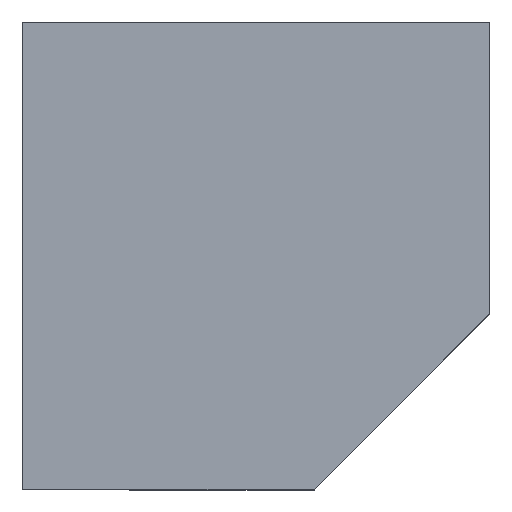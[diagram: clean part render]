
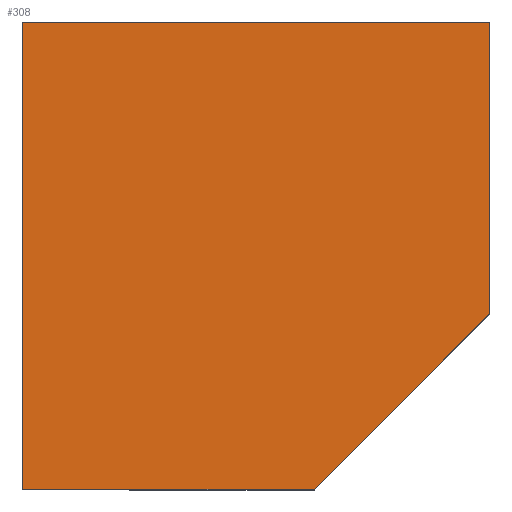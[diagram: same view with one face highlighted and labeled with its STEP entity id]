
A CAD part, top view. The second image highlights one B-rep face of the part: STEP entity #308.
In plain terms, the highlighted planar face has unit normal (0, 0, 1).
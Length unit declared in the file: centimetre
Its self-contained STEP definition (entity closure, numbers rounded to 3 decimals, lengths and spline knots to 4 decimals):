
#7 = LINE ( 'NONE', #46, #374 ) ;
#14 = ORIENTED_EDGE ( 'NONE', *, *, #324, .T. ) ;
#22 = ORIENTED_EDGE ( 'NONE', *, *, #343, .T. ) ;
#26 = ORIENTED_EDGE ( 'NONE', *, *, #404, .T. ) ;
#37 = CARTESIAN_POINT ( 'NONE',  ( 1000., 1000., 1000. ) ) ;
#46 = CARTESIAN_POINT ( 'NONE',  ( 0., 0., 1000. ) ) ;
#61 = ORIENTED_EDGE ( 'NONE', *, *, #287, .T. ) ;
#64 = VECTOR ( 'NONE', #229, 100. ) ;
#67 = DIRECTION ( 'NONE',  ( 0., 1., 0. ) ) ;
#85 = DIRECTION ( 'NONE',  ( 1., 0., 0. ) ) ;
#114 = VERTEX_POINT ( 'NONE', #379 ) ;
#133 = DIRECTION ( 'NONE',  ( 1., 0., 0. ) ) ;
#176 = PLANE ( 'NONE',  #502 ) ;
#223 = VERTEX_POINT ( 'NONE', #37 ) ;
#229 = DIRECTION ( 'NONE',  ( 0., -1., 0. ) ) ;
#247 = CARTESIAN_POINT ( 'NONE',  ( 0., 0., 1000. ) ) ;
#287 = EDGE_CURVE ( 'NONE', #114, #223, #478, .T. ) ;
#293 = LINE ( 'NONE', #518, #426 ) ;
#308 = ADVANCED_FACE ( 'NONE', ( #512 ), #176, .T. ) ;
#314 = EDGE_LOOP ( 'NONE', ( #14, #471, #61, #22, #26 ) ) ;
#323 = VECTOR ( 'NONE', #67, 100. ) ;
#324 = EDGE_CURVE ( 'NONE', #535, #493, #7, .T. ) ;
#332 = DIRECTION ( 'NONE',  ( 0., 0., 1. ) ) ;
#343 = EDGE_CURVE ( 'NONE', #223, #442, #293, .T. ) ;
#345 = CARTESIAN_POINT ( 'NONE',  ( 0., 1000., 1000. ) ) ;
#374 = VECTOR ( 'NONE', #85, 100. ) ;
#376 = CARTESIAN_POINT ( 'NONE',  ( 0., 0., 1000. ) ) ;
#379 = CARTESIAN_POINT ( 'NONE',  ( 1000., 375.1224, 1000. ) ) ;
#394 = LINE ( 'NONE', #435, #440 ) ;
#404 = EDGE_CURVE ( 'NONE', #442, #535, #531, .T. ) ;
#419 = DIRECTION ( 'NONE',  ( -1., 0., 0. ) ) ;
#426 = VECTOR ( 'NONE', #419, 100. ) ;
#429 = EDGE_CURVE ( 'NONE', #493, #114, #394, .T. ) ;
#435 = CARTESIAN_POINT ( 'NONE',  ( 312.4388, -312.4388, 1000. ) ) ;
#440 = VECTOR ( 'NONE', #489, 100. ) ;
#442 = VERTEX_POINT ( 'NONE', #523 ) ;
#454 = CARTESIAN_POINT ( 'NONE',  ( 624.8776, 0., 1000. ) ) ;
#471 = ORIENTED_EDGE ( 'NONE', *, *, #429, .T. ) ;
#478 = LINE ( 'NONE', #498, #323 ) ;
#489 = DIRECTION ( 'NONE',  ( 0.707, 0.707, 0. ) ) ;
#493 = VERTEX_POINT ( 'NONE', #454 ) ;
#498 = CARTESIAN_POINT ( 'NONE',  ( 1000., 1000., 1000. ) ) ;
#502 = AXIS2_PLACEMENT_3D ( 'NONE', #376, #332, #133 ) ;
#512 = FACE_OUTER_BOUND ( 'NONE', #314, .T. ) ;
#518 = CARTESIAN_POINT ( 'NONE',  ( 0., 1000., 1000. ) ) ;
#523 = CARTESIAN_POINT ( 'NONE',  ( 0., 1000., 1000. ) ) ;
#531 = LINE ( 'NONE', #345, #64 ) ;
#535 = VERTEX_POINT ( 'NONE', #247 ) ;
